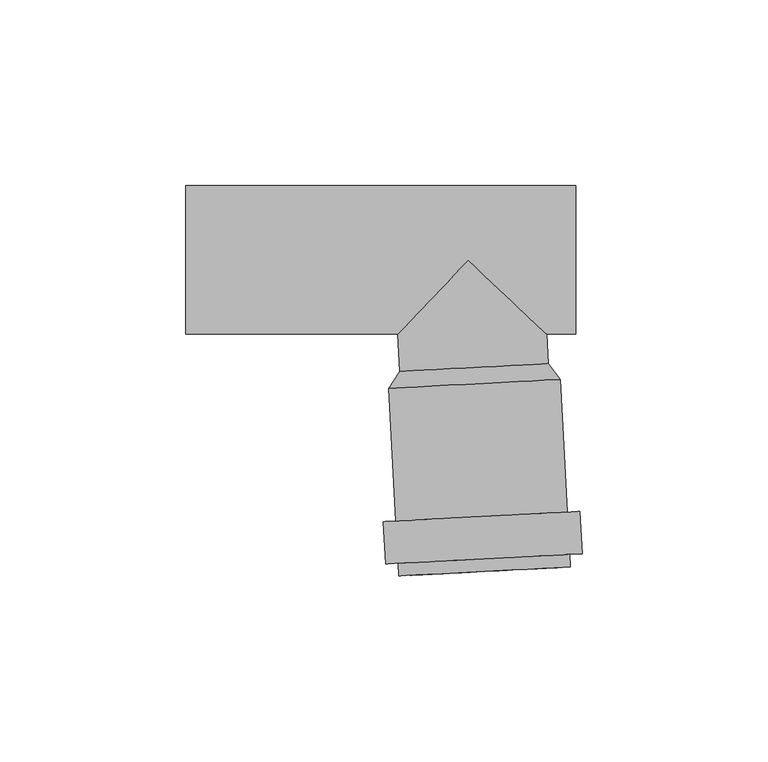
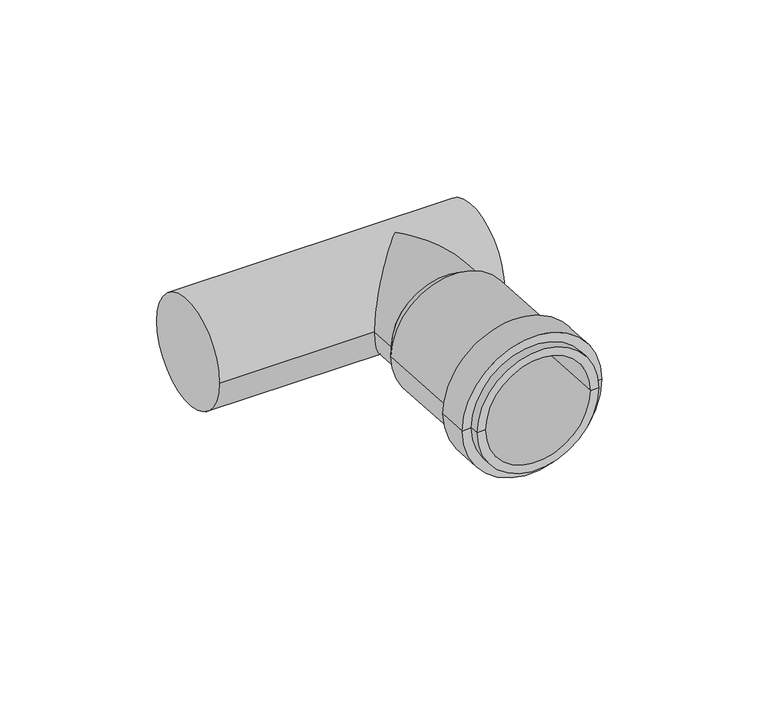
"""IFC4 building model written with IfcOpenShell, lengths in millimetres: pipe fitting geometry, pf_HTEA : pf_HTEA."""

from ifc_helpers import new_model, si_unit, frame, origin, place, context, project, spatial, polyline, circle_curve, ellipse_curve, source, transform, mapped, element, save
from ifc_brep_helpers import plane_surface, cylinder_surface, revolved_surface, advanced_brep


def pipe_fitting_4c61564b(model_context):
    return source(origin(), model_context, "Body", "AdvancedBrep", [
        advanced_brep(
        [(-18.454848, -30.0069756, 0.0), (21.4903334, -27.9135374, 0.0), (24.8163632, -32.1452659, 0.0), (-21.3203213, -34.563187, 0.0), (1.5177427, -28.9602565, 0.0), (-18.6721219, -85.0938415, 0.0), (27.4645626, -82.6759203, 0.0), (24.368811, -82.8381618, 0.0), (-15.5763704, -84.9316, 0.0), (-18.8500642, -81.6985011, 0.0), (27.2866203, -79.2805799, 0.0), (-22.2454046, -81.8764433, 0.0), (30.6819607, -79.1026376, 0.0), (-22.8420345, -70.4920666, 0.0), (30.0853308, -67.7182609, 0.0), (-19.4466941, -70.3141244, 0.0), (26.6899904, -67.8962032, 0.0), (-18.2245698, -34.4009456, 0.0), (21.7206116, -32.3075073, 0.0), (1.7480209, -33.3542264, 0.0)],
        [
            (0, 1, circle_curve(frame((1.5177427, -28.9602565, 0.0), z_axis=(0.0523359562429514, -0.9986295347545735, 0.0), x_axis=(0.9986295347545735, 0.0523359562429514, 0.0)), 20.0)),
            (1, 2),
            (2, 3, circle_curve(frame((1.7480209, -33.3542264, 0.0), z_axis=(-0.0523359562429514, 0.9986295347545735, 0.0), x_axis=(0.9986295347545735, 0.0523359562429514, 0.0)), 23.1)),
            (3, 0),
            (1, 0, circle_curve(frame((1.5177427, -28.9602565, 0.0), z_axis=(0.0523359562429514, -0.9986295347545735, 0.0), x_axis=(0.9986295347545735, 0.0523359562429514, 0.0)), 20.0)),
            (3, 2, circle_curve(frame((1.7480209, -33.3542264, 0.0), z_axis=(-0.0523359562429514, 0.9986295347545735, 0.0), x_axis=(0.9986295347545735, 0.0523359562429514, 0.0)), 23.1)),
            (4, 1),
            (0, 4),
            (5, 6, circle_curve(frame((4.3962203, -83.8848809, 0.0), z_axis=(0.0523359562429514, -0.9986295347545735, 0.0), x_axis=(0.9986295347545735, 0.0523359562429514, 0.0)), 23.1)),
            (6, 7),
            (7, 8, circle_curve(frame((4.3962203, -83.8848809, 0.0), z_axis=(-0.0523359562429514, 0.9986295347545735, 0.0), x_axis=(0.9986295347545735, 0.0523359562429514, 0.0)), 20.0)),
            (8, 5),
            (6, 5, circle_curve(frame((4.3962203, -83.8848809, 0.0), z_axis=(0.0523359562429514, -0.9986295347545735, 0.0), x_axis=(0.9986295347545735, 0.0523359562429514, 0.0)), 23.1)),
            (8, 7, circle_curve(frame((4.3962203, -83.8848809, 0.0), z_axis=(-0.0523359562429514, 0.9986295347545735, 0.0), x_axis=(0.9986295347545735, 0.0523359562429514, 0.0)), 20.0)),
            (9, 10, circle_curve(frame((4.2182781, -80.4895405, 0.0), z_axis=(0.0523359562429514, -0.9986295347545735, 0.0), x_axis=(0.9986295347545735, 0.0523359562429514, 0.0)), 23.1)),
            (10, 6),
            (5, 9),
            (10, 9, circle_curve(frame((4.2182781, -80.4895405, 0.0), z_axis=(0.0523359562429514, -0.9986295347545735, 0.0), x_axis=(0.9986295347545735, 0.0523359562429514, 0.0)), 23.1)),
            (11, 12, circle_curve(frame((4.2182781, -80.4895405, 0.0), z_axis=(0.0523359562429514, -0.9986295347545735, 0.0), x_axis=(0.9986295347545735, 0.0523359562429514, 0.0)), 26.5)),
            (12, 10),
            (9, 11),
            (12, 11, circle_curve(frame((4.2182781, -80.4895405, 0.0), z_axis=(0.0523359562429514, -0.9986295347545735, 0.0), x_axis=(0.9986295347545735, 0.0523359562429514, 0.0)), 26.5)),
            (13, 14, circle_curve(frame((3.6216482, -69.1051638, 0.0), z_axis=(0.0523359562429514, -0.9986295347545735, 0.0), x_axis=(0.9986295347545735, 0.0523359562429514, 0.0)), 26.5)),
            (14, 12),
            (11, 13),
            (14, 13, circle_curve(frame((3.6216482, -69.1051638, 0.0), z_axis=(0.0523359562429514, -0.9986295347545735, 0.0), x_axis=(0.9986295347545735, 0.0523359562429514, 0.0)), 26.5)),
            (15, 16, circle_curve(frame((3.6216482, -69.1051638, 0.0), z_axis=(0.0523359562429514, -0.9986295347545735, 0.0), x_axis=(0.9986295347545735, 0.0523359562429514, 0.0)), 23.1)),
            (16, 14),
            (13, 15),
            (16, 15, circle_curve(frame((3.6216482, -69.1051638, 0.0), z_axis=(0.0523359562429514, -0.9986295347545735, 0.0), x_axis=(0.9986295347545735, 0.0523359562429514, 0.0)), 23.1)),
            (2, 16),
            (15, 3),
            (17, 18, circle_curve(frame((1.7480209, -33.3542264, 0.0), z_axis=(0.0523359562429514, -0.9986295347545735, 0.0), x_axis=(0.9986295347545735, 0.0523359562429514, 0.0)), 20.0)),
            (18, 19),
            (19, 17),
            (18, 17, circle_curve(frame((1.7480209, -33.3542264, 0.0), z_axis=(0.0523359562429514, -0.9986295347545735, 0.0), x_axis=(0.9986295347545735, 0.0523359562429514, 0.0)), 20.0)),
            (7, 18),
            (17, 8),
        ],
        [
            revolved_surface(polyline([(24.8163632, -32.1452659, 0.0), (21.4903334, -27.9135374, 0.0)]), (1.5177427, -28.9602565, 0.0), (-0.0523359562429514, 0.9986295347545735, 0.0)),
            plane_surface(frame((1.5177427, -28.9602565, 0.0), z_axis=(-0.0523359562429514, 0.9986295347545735, 0.0), x_axis=(0.9986295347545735, 0.0523359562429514, 0.0))),
            plane_surface(frame((4.3962203, -83.8848809, 0.0), z_axis=(0.0523359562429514, -0.9986295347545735, 0.0), x_axis=(0.9986295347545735, 0.0523359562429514, 0.0))),
            cylinder_surface(frame((1.5177427, -28.9602565, 0.0), z_axis=(-0.0523359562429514, 0.9986295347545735, 0.0), x_axis=(0.9986295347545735, 0.0523359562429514, 0.0)), 23.1),
            plane_surface(frame((4.2182781, -80.4895405, 0.0), z_axis=(0.0523359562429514, -0.9986295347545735, 0.0), x_axis=(0.9986295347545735, 0.0523359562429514, 0.0))),
            cylinder_surface(frame((1.5177427, -28.9602565, 0.0), z_axis=(-0.0523359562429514, 0.9986295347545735, 0.0), x_axis=(0.9986295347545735, 0.0523359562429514, 0.0)), 26.5),
            plane_surface(frame((3.6216482, -69.1051638, 0.0), z_axis=(-0.0523359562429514, 0.9986295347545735, 0.0), x_axis=(0.9986295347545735, 0.0523359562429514, 0.0))),
            plane_surface(frame((1.7480209, -33.3542264, 0.0), z_axis=(0.0523359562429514, -0.9986295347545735, 0.0), x_axis=(0.9986295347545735, 0.0523359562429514, 0.0))),
            revolved_surface(polyline([(21.720611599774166, -32.30750727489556, 0.0), (24.36881098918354, -82.83816180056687, 0.0)]), (1.5177427, -28.9602565, 0.0), (-0.0523359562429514, 0.9986295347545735, 0.0)),
        ],
        [
            (0, [[1, 2, 3, 4]]),
            (0, [[5, -4, 6, -2]]),
            (1, [[7, -1, 8]]),
            (1, [[-8, -5, -7]]),
            (2, [[9, 10, 11, 12]]),
            (2, [[13, -12, 14, -10]]),
            (3, [[15, 16, -9, 17]]),
            (3, [[18, -17, -13, -16]]),
            (4, [[19, 20, -15, 21]]),
            (4, [[22, -21, -18, -20]]),
            (5, [[23, 24, -19, 25]]),
            (5, [[26, -25, -22, -24]]),
            (6, [[27, 28, -23, 29]]),
            (6, [[30, -29, -26, -28]]),
            (3, [[-3, 31, -27, 32]]),
            (3, [[-6, -32, -30, -31]]),
            (7, [[33, 34, 35]]),
            (7, [[36, -35, -34]]),
            (8, [[-11, 37, -33, 38]]),
            (8, [[-14, -38, -36, -37]]),
        ],
    ),
        advanced_brep(
        [(-18.454848, -30.0069756, 0.0), (21.4903334, -27.9135374, 0.0), (-76.0, -20.0, 0.0), (-76.0, 20.0, 0.0), (29.0, -20.0, 0.0), (29.0, 20.0, 0.0), (-18.9792913, -20.0, 0.0), (0.0, 0.0, 20.0), (21.0756025, -20.0, 0.0), (0.0, 0.0, -20.0)],
        [
            (0, 1, circle_curve(frame((1.5177427, -28.9602565, 0.0), z_axis=(0.052335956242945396, -0.9986295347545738, 0.0), x_axis=(0.9986295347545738, 0.052335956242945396, 0.0)), 20.0)),
            (1, 0, circle_curve(frame((1.5177427, -28.9602565, 0.0), z_axis=(0.052335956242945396, -0.9986295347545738, 0.0), x_axis=(0.9986295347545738, 0.052335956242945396, 0.0)), 20.0)),
            (2, 3, circle_curve(frame((-76.0, 0.0, 0.0), z_axis=(-1.0, 0.0, 0.0), x_axis=(0.0, 1.0, 0.0)), 20.0)),
            (3, 2, circle_curve(frame((-76.0, 0.0, 0.0), z_axis=(-1.0, 0.0, 0.0), x_axis=(0.0, 1.0, 0.0)), 20.0)),
            (4, 5, circle_curve(frame((29.0, 0.0, 0.0), z_axis=(1.0, 0.0, 0.0), x_axis=(0.0, 1.0, 0.0)), 20.0)),
            (5, 4, circle_curve(frame((29.0, 0.0, 0.0), z_axis=(1.0, 0.0, 0.0), x_axis=(0.0, 1.0, 0.0)), 20.0)),
            (2, 6),
            (6, 7, ellipse_curve(frame((0.0, 0.0, 0.0), z_axis=(-0.7253743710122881, 0.6883545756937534, 0.0), x_axis=(-0.6883545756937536, -0.725374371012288, 0.0)), 27.5719695, 20.0)),
            (7, 8, ellipse_curve(frame((0.0, 0.0, 0.0), z_axis=(0.6883545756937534, 0.7253743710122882, 0.0), x_axis=(-0.7253743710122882, 0.6883545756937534, 0.0)), 29.0547934, 20.0)),
            (8, 4),
            (5, 3),
            (8, 9, ellipse_curve(frame((0.0, 0.0, 0.0), z_axis=(0.6883545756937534, 0.7253743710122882, 0.0), x_axis=(-0.7253743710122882, 0.6883545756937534, 0.0)), 29.0547934, 20.0)),
            (9, 6, ellipse_curve(frame((0.0, 0.0, 0.0), z_axis=(-0.7253743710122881, 0.6883545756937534, 0.0), x_axis=(-0.6883545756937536, -0.725374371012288, 0.0)), 27.5719695, 20.0)),
            (1, 8),
            (6, 0),
        ],
        [
            plane_surface(frame((1.5177427, -28.9602565, 0.0), z_axis=(0.052335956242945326, -0.9986295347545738, 0.0), x_axis=(0.0, 0.0, 1.0))),
            plane_surface(frame((-76.0, 0.0, 0.0), z_axis=(-1.0, 0.0, 0.0), x_axis=(0.0, 0.0, 1.0))),
            plane_surface(frame((29.0, 0.0, 0.0), z_axis=(1.0, 0.0, 0.0), x_axis=(0.0, 0.0, 1.0))),
            cylinder_surface(frame((-76.0, 0.0, 0.0), z_axis=(-1.0, 0.0, 0.0), x_axis=(0.0, 1.0, 0.0)), 20.0),
            cylinder_surface(frame((0.0, 0.0, 0.0), z_axis=(-0.052335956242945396, 0.9986295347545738, 0.0), x_axis=(0.9986295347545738, 0.052335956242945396, 0.0)), 20.0),
        ],
        [
            (0, [[1, 2]]),
            (1, [[3, 4]]),
            (2, [[5, 6]]),
            (3, [[-3, 7, 8, 9, 10, -6, 11]]),
            (3, [[-4, -11, -5, -10, 12, 13, -7]]),
            (4, [[-2, 14, -9, -8, 15]]),
            (4, [[-1, -15, -13, -12, -14]]),
        ],
    ),
    ])


if __name__ == "__main__":
    model = new_model("IFC4")
    model_context = context("Model", 3, world=origin())
    ifc_project = project(units=[si_unit("LENGTHUNIT", "METRE", prefix="MILLI")], contexts=[model_context])
    site = spatial("IfcSite", under=ifc_project)
    building = spatial("IfcBuilding", under=site)
    placement = place(None, origin())
    pipe_fitting_shape = pipe_fitting_4c61564b(model_context)
    element("IfcPipeFitting", 1, ObjectType="pf_HTEA : pf_HTEA", at=placement, inside=building, context=model_context, shape_type="MappedRepresentation", body=[
        mapped(pipe_fitting_shape, transform((0.0, 0.0, 0.0), x_axis=(1.0, 0.0, 0.0), y_axis=(0.0, 1.0, 0.0), z_axis=(0.0, 0.0, 1.0))),
    ])
    save(model, "model.ifc")
